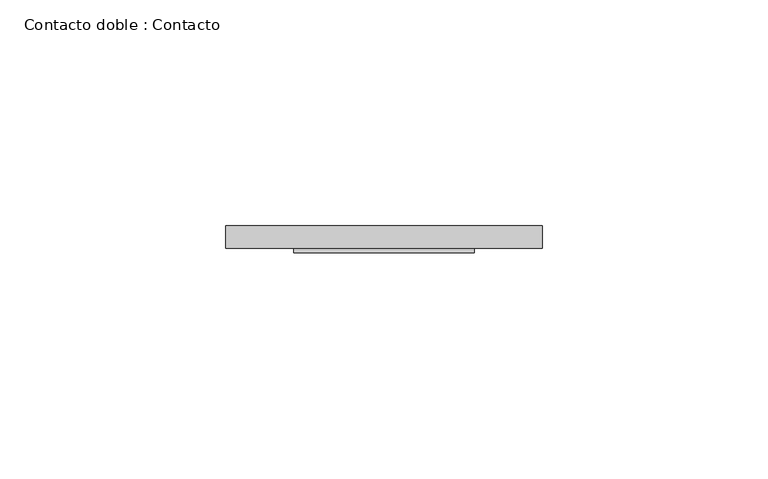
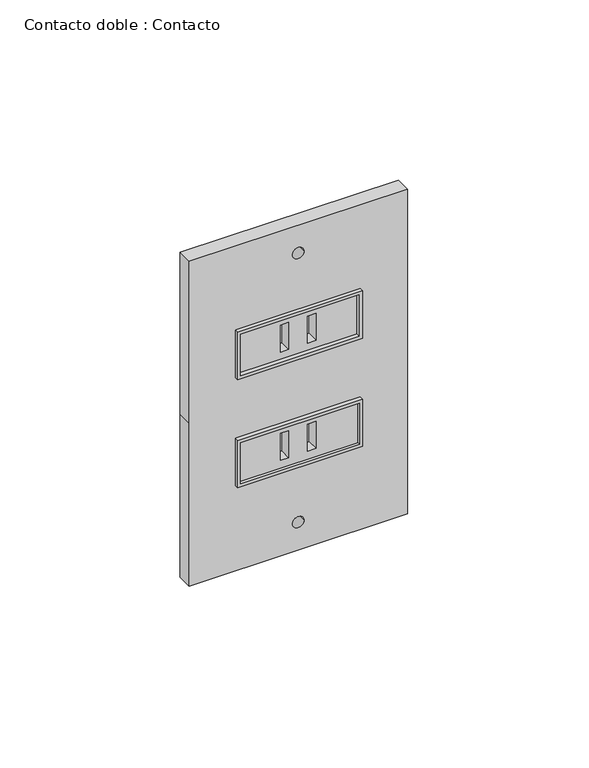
"""IFC4 building model written with IfcOpenShell, lengths in millimetres: proxy geometry, Contacto doble : Contacto."""

import ifcopenshell
import ifcopenshell.guid

model = None  # the IFC model being written
_history = None  # IfcOwnerHistory: only IFC2X3 demands one
_inside = {}  # id of a spatial element -> (the spatial element, [elements in it])
_under = {}  # id of a project, library or spatial element -> (it, [spatial elements below it])
_declared = {}  # id of a project -> (the project, [libraries it declares])
_typed = {}  # id of a type object -> (the type object, [elements of that type])
_made_of = {}  # id of a material, layer set ... -> (it, [elements and type objects made of it])


def new_model(schema):
    """Start an empty IFC model of exactly this schema.

    Asked for "IFC4X3", IfcOpenShell would pick the latest addendum, in which some entities
    have other attributes; the version numbers below select the first issue.
    IFC2X3 requires an IfcOwnerHistory on every rooted entity: one is made here for all.
    """
    global model, _history
    if schema == "IFC4X3":
        model = ifcopenshell.file(schema_version=(4, 3, 0, 0))
    else:
        model = ifcopenshell.file(schema=schema)
    _inside.clear()
    _under.clear()
    _declared.clear()
    _typed.clear()
    _made_of.clear()
    _history = None
    if model.schema == "IFC2X3":
        org = make("IfcOrganization", Name="unknown")
        user = make(
            "IfcPersonAndOrganization",
            ThePerson=make("IfcPerson", FamilyName="unknown"),
            TheOrganization=org,
        )
        app = make(
            "IfcApplication",
            ApplicationDeveloper=org,
            Version="unknown",
            ApplicationFullName="unknown",
            ApplicationIdentifier="unknown",
        )
        _history = make(
            "IfcOwnerHistory",
            OwningUser=user,
            OwningApplication=app,
            ChangeAction="ADDED",
            CreationDate=0,
        )
    return model


def make(cls, **values):
    """One entity of the class cls with the attributes given. An attribute that is None is left unset."""
    return model.create_entity(
        cls, **{name: value for name, value in values.items() if value is not None}
    )


def rooted(cls, **values):
    """An entity with a GlobalId (a new one), such as an element, a storey or a relation."""
    return make(cls, GlobalId=ifcopenshell.guid.new(), OwnerHistory=_history, **values)


def si_unit(unit_type, name, prefix=None):
    """IfcSIUnit, for example si_unit("LENGTHUNIT", "METRE", prefix="MILLI")."""
    return make("IfcSIUnit", UnitType=unit_type, Prefix=prefix, Name=name)


def assignment(units):
    """IfcUnitAssignment: the units of a project."""
    return None if units is None else make("IfcUnitAssignment", Units=units)


def point(xyz):
    """IfcCartesianPoint."""
    return None if xyz is None else make("IfcCartesianPoint", Coordinates=xyz)


def direction(xyz):
    """IfcDirection."""
    return None if xyz is None else make("IfcDirection", DirectionRatios=xyz)


def frame(location, z_axis=None, x_axis=None):
    """IfcAxis2Placement3D, a coordinate frame: its origin and axes. An axis left out is left unset."""
    return make(
        "IfcAxis2Placement3D",
        Location=point(location),
        Axis=direction(z_axis),
        RefDirection=direction(x_axis),
    )


def frame_2d(location, x_axis=None):
    """IfcAxis2Placement2D, a coordinate frame in the plane: its origin and x axis."""
    return make(
        "IfcAxis2Placement2D", Location=point(location), RefDirection=direction(x_axis)
    )


def origin():
    """The frame at (0, 0, 0) with its axes left unset."""
    return frame((0.0, 0.0, 0.0))


def place(relative_to, where):
    """IfcLocalPlacement: puts the frame where relative to a parent placement (None: the world)."""
    return make(
        "IfcLocalPlacement", PlacementRelTo=relative_to, RelativePlacement=where
    )


def context(
    kind, dimensions, precision=None, world=None, true_north=None, identifier=None
):
    """IfcGeometricRepresentationContext, for example the 3D "Model" context."""
    return make(
        "IfcGeometricRepresentationContext",
        ContextIdentifier=identifier,
        ContextType=kind,
        CoordinateSpaceDimension=dimensions,
        Precision=precision,
        WorldCoordinateSystem=world,
        TrueNorth=true_north,
    )


def project(units=None, contexts=None):
    """IfcProject with its units and contexts."""
    return rooted(
        "IfcProject",
        Name="project",
        RepresentationContexts=contexts,
        UnitsInContext=assignment(units),
    )


def spatial(cls, under=None, at=None, **own):
    """A site, building, storey or space (cls), placed at a placement, below another one or the project."""
    s = rooted(cls, ObjectPlacement=at, **own)
    if under is not None:
        _under.setdefault(under.id(), (under, []))[1].append(s)
    return s


def polyline(points):
    """IfcPolyline through the points."""
    return make("IfcPolyline", Points=[point(p) for p in points])


def circle_curve(where, radius):
    """IfcCircle in the frame where."""
    return make("IfcCircle", Position=where, Radius=radius)


def trimmed(basis, trim1, trim2, sense, master):
    """IfcTrimmedCurve: the piece of a basis curve between two trims."""
    return make(
        "IfcTrimmedCurve",
        BasisCurve=basis,
        Trim1=trim1,
        Trim2=trim2,
        SenseAgreement=sense,
        MasterRepresentation=master,
    )


def segment(curve, same_sense, transition):
    """IfcCompositeCurveSegment."""
    return make(
        "IfcCompositeCurveSegment",
        Transition=transition,
        SameSense=same_sense,
        ParentCurve=curve,
    )


def composite_curve(segments, self_intersect=None):
    """IfcCompositeCurve: segments joined end to end."""
    return make("IfcCompositeCurve", Segments=segments, SelfIntersect=self_intersect)


def outline(outer, holes=None, kind="AREA"):
    """IfcArbitraryClosedProfileDef: a profile drawn as a closed curve; with holes, ...WithVoids."""
    if holes is None:
        return make("IfcArbitraryClosedProfileDef", ProfileType=kind, OuterCurve=outer)
    return make(
        "IfcArbitraryProfileDefWithVoids",
        ProfileType=kind,
        OuterCurve=outer,
        InnerCurves=holes,
    )


def extrude(swept, where, along, depth):
    """IfcExtrudedAreaSolid: the profile swept, set in the frame where, extruded along a direction by depth."""
    return make(
        "IfcExtrudedAreaSolid",
        SweptArea=swept,
        Position=where,
        ExtrudedDirection=direction(along),
        Depth=depth,
    )


def shape(context_of_items, identifier, shape_type, items):
    """IfcShapeRepresentation: the items that make up one representation, for example the "Body"."""
    return make(
        "IfcShapeRepresentation",
        ContextOfItems=context_of_items,
        RepresentationIdentifier=identifier,
        RepresentationType=shape_type,
        Items=items,
    )


def source(mapping_origin, context_of_items, identifier, shape_type, items):
    """IfcRepresentationMap: a shape defined once, which mapped items show again and again."""
    return make(
        "IfcRepresentationMap",
        MappingOrigin=mapping_origin,
        MappedRepresentation=shape(context_of_items, identifier, shape_type, items),
    )


def transform(
    local_origin,
    x_axis=None,
    y_axis=None,
    z_axis=None,
    scale=None,
    scale2=None,
    scale3=None,
    uniform=True,
):
    """IfcCartesianTransformationOperator3D, or its non-uniform kind. x_axis, y_axis, z_axis: its Axis1, 2, 3."""
    if uniform:
        return make(
            "IfcCartesianTransformationOperator3D",
            Axis1=direction(x_axis),
            Axis2=direction(y_axis),
            LocalOrigin=point(local_origin),
            Scale=scale,
            Axis3=direction(z_axis),
        )
    return make(
        "IfcCartesianTransformationOperator3DnonUniform",
        Axis1=direction(x_axis),
        Axis2=direction(y_axis),
        LocalOrigin=point(local_origin),
        Scale=scale,
        Axis3=direction(z_axis),
        Scale2=scale2,
        Scale3=scale3,
    )


def mapped(mapping_source, mapping_target):
    """IfcMappedItem: shows the shape of a source again, moved by a transform."""
    return make(
        "IfcMappedItem", MappingSource=mapping_source, MappingTarget=mapping_target
    )


def made_of(thing, what):
    """Note that an element or type object is made of a material, layer set ...; save() writes the relation."""
    if what is not None:
        _made_of.setdefault(what.id(), (what, []))[1].append(thing)
    return thing


def element(
    cls,
    number,
    at=None,
    inside=None,
    cuts=None,
    type_object=None,
    material=None,
    context=None,
    identifier="Body",
    shape_type=None,
    held_by="IfcProductDefinitionShape",
    body=None,
    shapes=None,
    **own,
):
    """One element of the class cls, such as IfcWall. Its Tag is "e" and its number.

    at: its placement. inside: the storey or other place that contains it. cuts: it is an
    opening in that element (IfcRelVoidsElement). A single representation is given by context,
    identifier, shape_type and body (its items); several are given by shapes. held_by: the class
    of the entity that holds the representations. save() writes the other relations.
    """
    e = rooted(cls, Tag="e%d" % number, ObjectPlacement=at, **own)
    if body is not None:
        shapes = [shape(context, identifier, shape_type, body)]
    if shapes is not None:
        e.Representation = make(held_by, Representations=shapes)
    if inside is not None:
        _inside.setdefault(inside.id(), (inside, []))[1].append(e)
    if cuts is not None:
        rooted(
            "IfcRelVoidsElement", RelatingBuildingElement=cuts, RelatedOpeningElement=e
        )
    if type_object is not None:
        _typed.setdefault(type_object.id(), (type_object, []))[1].append(e)
    return made_of(e, material)


def aggregate(whole, parts):
    """IfcRelAggregates: a whole, such as a stair, and the parts it consists of."""
    return rooted("IfcRelAggregates", RelatingObject=whole, RelatedObjects=parts)


def save(model, path):
    """Write the relations noted so far, then the file.

    IfcRelAggregates (storeys below a building ...), IfcRelContainedInSpatialStructure (elements
    in a storey), IfcRelDefinesByType, IfcRelAssociatesMaterial and IfcRelDeclares: one each for
    every whole, place, type object, material and project.
    """
    for whole, parts in _under.values():
        aggregate(whole, parts)
    for where, things in _inside.values():
        rooted(
            "IfcRelContainedInSpatialStructure",
            RelatedElements=things,
            RelatingStructure=where,
        )
    for kind, things in _typed.values():
        rooted("IfcRelDefinesByType", RelatedObjects=things, RelatingType=kind)
    for what, things in _made_of.values():
        rooted("IfcRelAssociatesMaterial", RelatedObjects=things, RelatingMaterial=what)
    for by, libraries in _declared.values():
        rooted("IfcRelDeclares", RelatingContext=by, RelatedDefinitions=libraries)
    model.write(path)


def contacto_doble_contacto_cae8f7dc(model_context):
    return source(origin(), model_context, "Body", "SweptSolid", [
        extrude(outline(polyline([(1088.6666667, 106.0359807), (1074.6666667, 106.0359807), (1074.6666667, 144.0359807), (1088.6666667, 144.0359807), (1088.6666667, 106.0359807)]), holes=[polyline([(1077.3652061, 121.9892242), (1077.3652061, 119.3302678), (1086.5176584, 119.3302678), (1086.5176584, 121.9892242), (1077.3652061, 121.9892242)]), polyline([(1077.3652061, 128.0827373), (1086.5176584, 128.0827373), (1086.5176584, 130.7416937), (1077.3652061, 130.7416937), (1077.3652061, 128.0827373)])]), frame((0.0, -90.0, 0.0), z_axis=(0.0, 1.0, 0.0), x_axis=(0.0, 0.0, 1.0)), (0.0, 0.0, 1.0), 3.7974393),
        extrude(outline(polyline([(1089.6666667, 145.0), (1089.6666667, 105.0), (1073.6666667, 105.0), (1073.6666667, 145.0), (1089.6666667, 145.0)]), holes=[polyline([(1088.6666667, 144.0359807), (1074.6666667, 144.0359807), (1074.6666667, 105.9197769), (1088.6666667, 105.9197769), (1088.6666667, 144.0359807)])]), frame((0.0, -90.9684395, 0.0), z_axis=(0.0, 1.0, 0.0), x_axis=(0.0, 0.0, 1.0)), (0.0, 0.0, 1.0), 4.7658788),
        extrude(outline(polyline([(1110.3333333, 145.0), (1126.3333333, 145.0), (1126.3333333, 105.0), (1110.3333333, 105.0), (1110.3333333, 145.0)]), holes=[polyline([(1125.3333333, 106.0), (1125.3333333, 144.0), (1111.3333333, 144.0), (1111.3333333, 106.0), (1125.3333333, 106.0)])]), frame((0.0, -90.9684395, 0.0), z_axis=(0.0, 1.0, 0.0), x_axis=(0.0, 0.0, 1.0)), (0.0, 0.0, 1.0), 4.7658788),
        extrude(outline(polyline([(1125.3333333, 106.0), (1111.3333333, 106.0), (1111.3333333, 144.0), (1125.3333333, 144.0), (1125.3333333, 106.0)]), holes=[polyline([(1114.0318727, 121.9532435), (1114.0318727, 119.2942871), (1123.184325, 119.2942871), (1123.184325, 121.9532435), (1114.0318727, 121.9532435)]), polyline([(1114.0318727, 128.0467565), (1123.184325, 128.0467565), (1123.184325, 130.7057129), (1114.0318727, 130.7057129), (1114.0318727, 128.0467565)])]), frame((0.0, -90.0, 0.0), z_axis=(0.0, 1.0, 0.0), x_axis=(0.0, 0.0, 1.0)), (0.0, 0.0, 1.0), 3.7974393),
        extrude(outline(polyline([(1155.0, 160.0), (1155.0, 90.0), (1100.0, 90.0), (1045.0, 90.0), (1045.0, 160.0), (1155.0, 160.0)]), holes=[composite_curve([segment(trimmed(circle_curve(frame_2d((1145.5814465, 125.0)), 1.8475425), [point((1145.5814465, 123.1524575))], [point((1145.5814465, 126.8475425))], True, "CARTESIAN"), True, "CONTINUOUS"), segment(trimmed(circle_curve(frame_2d((1145.5814465, 125.0)), 1.8475425), [point((1145.5814465, 126.8475425))], [point((1145.5814465, 123.1524575))], True, "CARTESIAN"), True, "CONTINUOUS")], self_intersect=False), composite_curve([segment(trimmed(circle_curve(frame_2d((1054.4185535, 125.0)), 1.8475425), [point((1054.4185535, 123.1524575))], [point((1054.4185535, 126.8475425))], True, "CARTESIAN"), True, "CONTINUOUS"), segment(trimmed(circle_curve(frame_2d((1054.4185535, 125.0)), 1.8475425), [point((1054.4185535, 126.8475425))], [point((1054.4185535, 123.1524575))], True, "CARTESIAN"), True, "CONTINUOUS")], self_intersect=False), polyline([(1089.6666667, 105.0), (1089.6666667, 145.0), (1073.6666667, 145.0), (1073.6666667, 105.0), (1089.6666667, 105.0)]), polyline([(1126.3333333, 105.0), (1126.3333333, 145.0), (1110.3333333, 145.0), (1110.3333333, 105.0), (1126.3333333, 105.0)])]), frame((0.0, -90.0, 0.0), z_axis=(0.0, 1.0, 0.0), x_axis=(0.0, 0.0, 1.0)), (0.0, 0.0, 1.0), 5.0),
    ])


if __name__ == "__main__":
    model = new_model("IFC4")
    model_context = context("Model", 3, world=origin())
    ifc_project = project(units=[si_unit("LENGTHUNIT", "METRE", prefix="MILLI")], contexts=[model_context])
    site = spatial("IfcSite", under=ifc_project)
    building = spatial("IfcBuilding", under=site)
    placement = place(None, origin())
    contacto_doble_contacto_shape = contacto_doble_contacto_cae8f7dc(model_context)
    element("IfcBuildingElementProxy", 1, Name="Contacto doble : Contacto", ObjectType="Contacto doble : Contacto", at=placement, inside=building, context=model_context, shape_type="MappedRepresentation", body=[
        mapped(contacto_doble_contacto_shape, transform((0.0, 0.0, 0.0), x_axis=(1.0, 0.0, 0.0), y_axis=(0.0, 1.0, 0.0), z_axis=(0.0, 0.0, 1.0))),
    ])
    save(model, "model.ifc")
